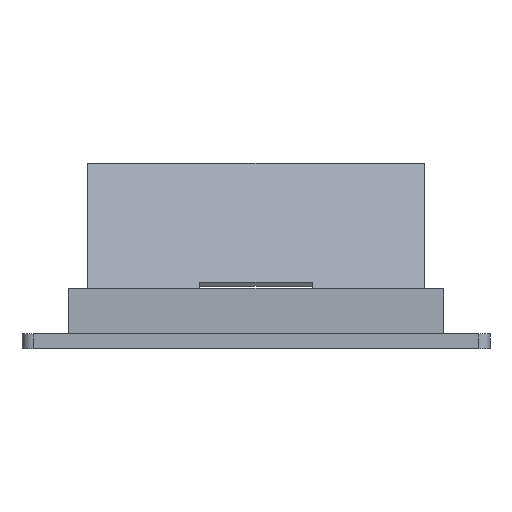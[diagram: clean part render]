
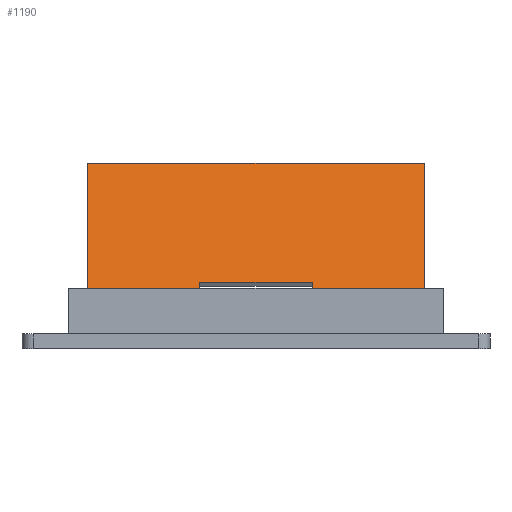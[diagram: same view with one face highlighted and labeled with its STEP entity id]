
A CAD part, front view. The second image highlights one B-rep face of the part: STEP entity #1190.
In plain terms, the highlighted planar face has unit normal (0, -0.966, 0.259).
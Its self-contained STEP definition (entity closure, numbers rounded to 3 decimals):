
#44 = PLANE('',#45);
#45 = AXIS2_PLACEMENT_3D('',#46,#47,#48);
#46 = CARTESIAN_POINT('',(-62.5,45.,4.));
#47 = DIRECTION('',(0.,0.,1.));
#48 = DIRECTION('',(1.,0.,0.));
#446 = EDGE_CURVE('',#447,#449,#451,.T.);
#447 = VERTEX_POINT('',#448);
#448 = CARTESIAN_POINT('',(-15.,73.97,4.));
#449 = VERTEX_POINT('',#450);
#450 = CARTESIAN_POINT('',(-45.,73.97,4.));
#451 = SURFACE_CURVE('',#452,(#456,#462),.PCURVE_S1.);
#452 = LINE('',#453,#454);
#453 = CARTESIAN_POINT('',(-53.75,73.97,4.));
#454 = VECTOR('',#455,1.);
#455 = DIRECTION('',(-1.,0.,0.));
#456 = PCURVE('',#44,#457);
#457 = DEFINITIONAL_REPRESENTATION('',(#458),#461);
#458 = B_SPLINE_CURVE_WITH_KNOTS('',1,(#459,#460),.UNSPECIFIED.,.F.,.F.,
  (2,2),(-98.75,-8.75),.PIECEWISE_BEZIER_KNOTS.);
#459 = CARTESIAN_POINT('',(107.5,28.97));
#460 = CARTESIAN_POINT('',(17.5,28.97));
#461 = ( GEOMETRIC_REPRESENTATION_CONTEXT(2) 
PARAMETRIC_REPRESENTATION_CONTEXT() REPRESENTATION_CONTEXT('2D SPACE',''
  ) );
#462 = PCURVE('',#463,#468);
#463 = PLANE('',#464);
#464 = AXIS2_PLACEMENT_3D('',#465,#466,#467);
#465 = CARTESIAN_POINT('',(-45.,70.4,-9.326));
#466 = DIRECTION('',(0.,0.966,-0.259));
#467 = DIRECTION('',(0.,0.259,0.966));
#468 = DEFINITIONAL_REPRESENTATION('',(#469),#472);
#469 = B_SPLINE_CURVE_WITH_KNOTS('',1,(#470,#471),.UNSPECIFIED.,.F.,.F.,
  (2,2),(-98.75,-8.75),.PIECEWISE_BEZIER_KNOTS.);
#470 = CARTESIAN_POINT('',(13.797,90.));
#471 = CARTESIAN_POINT('',(13.797,0.));
#472 = ( GEOMETRIC_REPRESENTATION_CONTEXT(2) 
PARAMETRIC_REPRESENTATION_CONTEXT() REPRESENTATION_CONTEXT('2D SPACE',''
  ) );
#489 = PLANE('',#490);
#490 = AXIS2_PLACEMENT_3D('',#491,#492,#493);
#491 = CARTESIAN_POINT('',(-45.,70.4,-9.326));
#492 = DIRECTION('',(1.,0.,0.));
#493 = DIRECTION('',(0.,0.259,0.966));
#539 = PLANE('',#540);
#540 = AXIS2_PLACEMENT_3D('',#541,#542,#543);
#541 = CARTESIAN_POINT('',(-15.,68.46,-15.019));
#542 = DIRECTION('',(1.,0.,0.));
#543 = DIRECTION('',(0.,0.259,0.966));
#553 = VERTEX_POINT('',#554);
#554 = CARTESIAN_POINT('',(45.,73.97,4.));
#569 = PLANE('',#570);
#570 = AXIS2_PLACEMENT_3D('',#571,#572,#573);
#571 = CARTESIAN_POINT('',(45.,70.4,-9.326));
#572 = DIRECTION('',(1.,0.,0.));
#573 = DIRECTION('',(0.,0.259,0.966));
#580 = EDGE_CURVE('',#553,#581,#583,.T.);
#581 = VERTEX_POINT('',#582);
#582 = CARTESIAN_POINT('',(15.,73.97,4.));
#583 = SURFACE_CURVE('',#584,(#588,#594),.PCURVE_S1.);
#584 = LINE('',#585,#586);
#585 = CARTESIAN_POINT('',(-53.75,73.97,4.));
#586 = VECTOR('',#587,1.);
#587 = DIRECTION('',(-1.,0.,0.));
#588 = PCURVE('',#44,#589);
#589 = DEFINITIONAL_REPRESENTATION('',(#590),#593);
#590 = B_SPLINE_CURVE_WITH_KNOTS('',1,(#591,#592),.UNSPECIFIED.,.F.,.F.,
  (2,2),(-98.75,-8.75),.PIECEWISE_BEZIER_KNOTS.);
#591 = CARTESIAN_POINT('',(107.5,28.97));
#592 = CARTESIAN_POINT('',(17.5,28.97));
#593 = ( GEOMETRIC_REPRESENTATION_CONTEXT(2) 
PARAMETRIC_REPRESENTATION_CONTEXT() REPRESENTATION_CONTEXT('2D SPACE',''
  ) );
#594 = PCURVE('',#463,#595);
#595 = DEFINITIONAL_REPRESENTATION('',(#596),#599);
#596 = B_SPLINE_CURVE_WITH_KNOTS('',1,(#597,#598),.UNSPECIFIED.,.F.,.F.,
  (2,2),(-98.75,-8.75),.PIECEWISE_BEZIER_KNOTS.);
#597 = CARTESIAN_POINT('',(13.797,90.));
#598 = CARTESIAN_POINT('',(13.797,0.));
#599 = ( GEOMETRIC_REPRESENTATION_CONTEXT(2) 
PARAMETRIC_REPRESENTATION_CONTEXT() REPRESENTATION_CONTEXT('2D SPACE',''
  ) );
#616 = PLANE('',#617);
#617 = AXIS2_PLACEMENT_3D('',#618,#619,#620);
#618 = CARTESIAN_POINT('',(15.,68.46,-15.019));
#619 = DIRECTION('',(1.,0.,0.));
#620 = DIRECTION('',(0.,0.259,0.966));
#1190 = ADVANCED_FACE('',(#1191),#463,.F.);
#1191 = FACE_BOUND('',#1192,.F.);
#1192 = EDGE_LOOP('',(#1193,#1194,#1217,#1245,#1266,#1267,#1290,#1318));
#1193 = ORIENTED_EDGE('',*,*,#446,.T.);
#1194 = ORIENTED_EDGE('',*,*,#1195,.T.);
#1195 = EDGE_CURVE('',#449,#1196,#1198,.T.);
#1196 = VERTEX_POINT('',#1197);
#1197 = CARTESIAN_POINT('',(-45.,86.175,49.547));
#1198 = SURFACE_CURVE('',#1199,(#1203,#1210),.PCURVE_S1.);
#1199 = LINE('',#1200,#1201);
#1200 = CARTESIAN_POINT('',(-45.,70.4,-9.326));
#1201 = VECTOR('',#1202,1.);
#1202 = DIRECTION('',(0.,0.259,0.966));
#1203 = PCURVE('',#463,#1204);
#1204 = DEFINITIONAL_REPRESENTATION('',(#1205),#1209);
#1205 = LINE('',#1206,#1207);
#1206 = CARTESIAN_POINT('',(0.,0.));
#1207 = VECTOR('',#1208,1.);
#1208 = DIRECTION('',(1.,0.));
#1209 = ( GEOMETRIC_REPRESENTATION_CONTEXT(2) 
PARAMETRIC_REPRESENTATION_CONTEXT() REPRESENTATION_CONTEXT('2D SPACE',''
  ) );
#1210 = PCURVE('',#489,#1211);
#1211 = DEFINITIONAL_REPRESENTATION('',(#1212),#1216);
#1212 = LINE('',#1213,#1214);
#1213 = CARTESIAN_POINT('',(0.,0.));
#1214 = VECTOR('',#1215,1.);
#1215 = DIRECTION('',(1.,0.));
#1216 = ( GEOMETRIC_REPRESENTATION_CONTEXT(2) 
PARAMETRIC_REPRESENTATION_CONTEXT() REPRESENTATION_CONTEXT('2D SPACE',''
  ) );
#1217 = ORIENTED_EDGE('',*,*,#1218,.T.);
#1218 = EDGE_CURVE('',#1196,#1219,#1221,.T.);
#1219 = VERTEX_POINT('',#1220);
#1220 = CARTESIAN_POINT('',(45.,86.175,49.547));
#1221 = SURFACE_CURVE('',#1222,(#1226,#1233),.PCURVE_S1.);
#1222 = LINE('',#1223,#1224);
#1223 = CARTESIAN_POINT('',(-45.,86.175,49.547));
#1224 = VECTOR('',#1225,1.);
#1225 = DIRECTION('',(1.,0.,0.));
#1226 = PCURVE('',#463,#1227);
#1227 = DEFINITIONAL_REPRESENTATION('',(#1228),#1232);
#1228 = LINE('',#1229,#1230);
#1229 = CARTESIAN_POINT('',(60.95,0.));
#1230 = VECTOR('',#1231,1.);
#1231 = DIRECTION('',(0.,1.));
#1232 = ( GEOMETRIC_REPRESENTATION_CONTEXT(2) 
PARAMETRIC_REPRESENTATION_CONTEXT() REPRESENTATION_CONTEXT('2D SPACE',''
  ) );
#1233 = PCURVE('',#1234,#1239);
#1234 = PLANE('',#1235);
#1235 = AXIS2_PLACEMENT_3D('',#1236,#1237,#1238);
#1236 = CARTESIAN_POINT('',(-45.,86.175,49.547));
#1237 = DIRECTION('',(0.,0.259,0.966));
#1238 = DIRECTION('',(1.,0.,0.));
#1239 = DEFINITIONAL_REPRESENTATION('',(#1240),#1244);
#1240 = LINE('',#1241,#1242);
#1241 = CARTESIAN_POINT('',(0.,0.));
#1242 = VECTOR('',#1243,1.);
#1243 = DIRECTION('',(1.,0.));
#1244 = ( GEOMETRIC_REPRESENTATION_CONTEXT(2) 
PARAMETRIC_REPRESENTATION_CONTEXT() REPRESENTATION_CONTEXT('2D SPACE',''
  ) );
#1245 = ORIENTED_EDGE('',*,*,#1246,.F.);
#1246 = EDGE_CURVE('',#553,#1219,#1247,.T.);
#1247 = SURFACE_CURVE('',#1248,(#1252,#1259),.PCURVE_S1.);
#1248 = LINE('',#1249,#1250);
#1249 = CARTESIAN_POINT('',(45.,70.4,-9.326));
#1250 = VECTOR('',#1251,1.);
#1251 = DIRECTION('',(0.,0.259,0.966));
#1252 = PCURVE('',#463,#1253);
#1253 = DEFINITIONAL_REPRESENTATION('',(#1254),#1258);
#1254 = LINE('',#1255,#1256);
#1255 = CARTESIAN_POINT('',(0.,90.));
#1256 = VECTOR('',#1257,1.);
#1257 = DIRECTION('',(1.,0.));
#1258 = ( GEOMETRIC_REPRESENTATION_CONTEXT(2) 
PARAMETRIC_REPRESENTATION_CONTEXT() REPRESENTATION_CONTEXT('2D SPACE',''
  ) );
#1259 = PCURVE('',#569,#1260);
#1260 = DEFINITIONAL_REPRESENTATION('',(#1261),#1265);
#1261 = LINE('',#1262,#1263);
#1262 = CARTESIAN_POINT('',(0.,0.));
#1263 = VECTOR('',#1264,1.);
#1264 = DIRECTION('',(1.,0.));
#1265 = ( GEOMETRIC_REPRESENTATION_CONTEXT(2) 
PARAMETRIC_REPRESENTATION_CONTEXT() REPRESENTATION_CONTEXT('2D SPACE',''
  ) );
#1266 = ORIENTED_EDGE('',*,*,#580,.T.);
#1267 = ORIENTED_EDGE('',*,*,#1268,.F.);
#1268 = EDGE_CURVE('',#1269,#581,#1271,.T.);
#1269 = VERTEX_POINT('',#1270);
#1270 = CARTESIAN_POINT('',(15.,77.647,17.719));
#1271 = SURFACE_CURVE('',#1272,(#1276,#1283),.PCURVE_S1.);
#1272 = LINE('',#1273,#1274);
#1273 = CARTESIAN_POINT('',(15.,69.623,-12.224));
#1274 = VECTOR('',#1275,1.);
#1275 = DIRECTION('',(0.,-0.259,-0.966));
#1276 = PCURVE('',#463,#1277);
#1277 = DEFINITIONAL_REPRESENTATION('',(#1278),#1282);
#1278 = LINE('',#1279,#1280);
#1279 = CARTESIAN_POINT('',(-3.,60.));
#1280 = VECTOR('',#1281,1.);
#1281 = DIRECTION('',(-1.,0.));
#1282 = ( GEOMETRIC_REPRESENTATION_CONTEXT(2) 
PARAMETRIC_REPRESENTATION_CONTEXT() REPRESENTATION_CONTEXT('2D SPACE',''
  ) );
#1283 = PCURVE('',#616,#1284);
#1284 = DEFINITIONAL_REPRESENTATION('',(#1285),#1289);
#1285 = LINE('',#1286,#1287);
#1286 = CARTESIAN_POINT('',(3.,-0.4));
#1287 = VECTOR('',#1288,1.);
#1288 = DIRECTION('',(-1.,0.));
#1289 = ( GEOMETRIC_REPRESENTATION_CONTEXT(2) 
PARAMETRIC_REPRESENTATION_CONTEXT() REPRESENTATION_CONTEXT('2D SPACE',''
  ) );
#1290 = ORIENTED_EDGE('',*,*,#1291,.F.);
#1291 = EDGE_CURVE('',#1292,#1269,#1294,.T.);
#1292 = VERTEX_POINT('',#1293);
#1293 = CARTESIAN_POINT('',(-15.,77.647,17.719));
#1294 = SURFACE_CURVE('',#1295,(#1299,#1306),.PCURVE_S1.);
#1295 = LINE('',#1296,#1297);
#1296 = CARTESIAN_POINT('',(-30.,77.647,17.719));
#1297 = VECTOR('',#1298,1.);
#1298 = DIRECTION('',(1.,0.,0.));
#1299 = PCURVE('',#463,#1300);
#1300 = DEFINITIONAL_REPRESENTATION('',(#1301),#1305);
#1301 = LINE('',#1302,#1303);
#1302 = CARTESIAN_POINT('',(28.,15.));
#1303 = VECTOR('',#1304,1.);
#1304 = DIRECTION('',(0.,1.));
#1305 = ( GEOMETRIC_REPRESENTATION_CONTEXT(2) 
PARAMETRIC_REPRESENTATION_CONTEXT() REPRESENTATION_CONTEXT('2D SPACE',''
  ) );
#1306 = PCURVE('',#1307,#1312);
#1307 = PLANE('',#1308);
#1308 = AXIS2_PLACEMENT_3D('',#1309,#1310,#1311);
#1309 = CARTESIAN_POINT('',(-15.,77.26,17.823));
#1310 = DIRECTION('',(0.,0.259,0.966));
#1311 = DIRECTION('',(1.,0.,0.));
#1312 = DEFINITIONAL_REPRESENTATION('',(#1313),#1317);
#1313 = LINE('',#1314,#1315);
#1314 = CARTESIAN_POINT('',(-15.,0.4));
#1315 = VECTOR('',#1316,1.);
#1316 = DIRECTION('',(1.,0.));
#1317 = ( GEOMETRIC_REPRESENTATION_CONTEXT(2) 
PARAMETRIC_REPRESENTATION_CONTEXT() REPRESENTATION_CONTEXT('2D SPACE',''
  ) );
#1318 = ORIENTED_EDGE('',*,*,#1319,.T.);
#1319 = EDGE_CURVE('',#1292,#447,#1320,.T.);
#1320 = SURFACE_CURVE('',#1321,(#1325,#1332),.PCURVE_S1.);
#1321 = LINE('',#1322,#1323);
#1322 = CARTESIAN_POINT('',(-15.,69.623,-12.224));
#1323 = VECTOR('',#1324,1.);
#1324 = DIRECTION('',(0.,-0.259,-0.966));
#1325 = PCURVE('',#463,#1326);
#1326 = DEFINITIONAL_REPRESENTATION('',(#1327),#1331);
#1327 = LINE('',#1328,#1329);
#1328 = CARTESIAN_POINT('',(-3.,30.));
#1329 = VECTOR('',#1330,1.);
#1330 = DIRECTION('',(-1.,0.));
#1331 = ( GEOMETRIC_REPRESENTATION_CONTEXT(2) 
PARAMETRIC_REPRESENTATION_CONTEXT() REPRESENTATION_CONTEXT('2D SPACE',''
  ) );
#1332 = PCURVE('',#539,#1333);
#1333 = DEFINITIONAL_REPRESENTATION('',(#1334),#1338);
#1334 = LINE('',#1335,#1336);
#1335 = CARTESIAN_POINT('',(3.,-0.4));
#1336 = VECTOR('',#1337,1.);
#1337 = DIRECTION('',(-1.,0.));
#1338 = ( GEOMETRIC_REPRESENTATION_CONTEXT(2) 
PARAMETRIC_REPRESENTATION_CONTEXT() REPRESENTATION_CONTEXT('2D SPACE',''
  ) );
